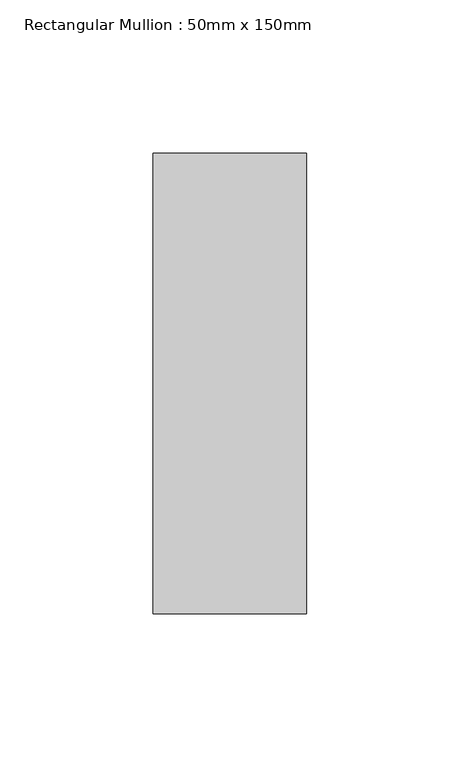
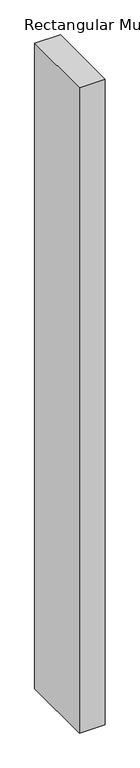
"""IFC4 building model written with IfcOpenShell, lengths in millimetres: member geometry, Rectangular Mullion : 50mm x 150mm."""

from ifc_helpers import new_model, si_unit, frame, origin, place, context, project, spatial, polyline, outline, extrude, source, transform, mapped, element, save


def rectangular_mullion_50mm_x_150mm_225b9777(model_context):
    return source(origin(), model_context, "Body", "SweptSolid", [
        extrude(outline(polyline([(0.0, 75.0), (0.0, -75.0), (-50.0, -75.0), (-50.0, 75.0), (0.0, 75.0)])), frame((0.0, 0.0, -1324.9999997), z_axis=(0.0, 0.0, 1.0), x_axis=(1.0, 0.0, 0.0)), (0.0, 0.0, 1.0), 1324.9999997),
    ])


if __name__ == "__main__":
    model = new_model("IFC4")
    model_context = context("Model", 3, world=origin())
    ifc_project = project(units=[si_unit("LENGTHUNIT", "METRE", prefix="MILLI")], contexts=[model_context])
    site = spatial("IfcSite", under=ifc_project)
    building = spatial("IfcBuilding", under=site)
    placement = place(None, origin())
    rectangular_mullion_50mm_x_150mm_shape = rectangular_mullion_50mm_x_150mm_225b9777(model_context)
    element("IfcMember", 1, ObjectType="Rectangular Mullion : 50mm x 150mm", at=placement, inside=building, context=model_context, shape_type="MappedRepresentation", body=[
        mapped(rectangular_mullion_50mm_x_150mm_shape, transform((0.0, 0.0, 0.0), x_axis=(1.0, 0.0, 0.0), y_axis=(0.0, 1.0, 0.0), z_axis=(0.0, 0.0, 1.0))),
    ])
    save(model, "model.ifc")
